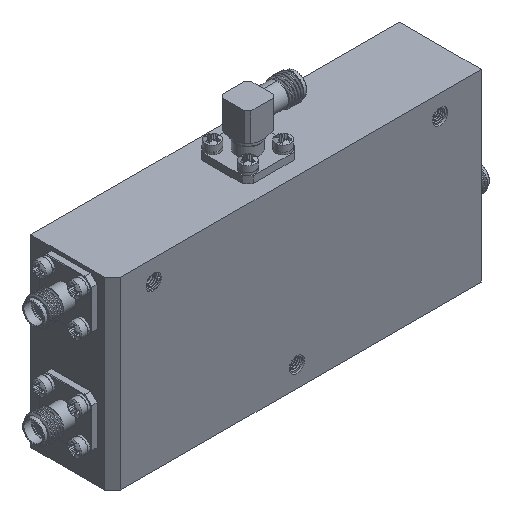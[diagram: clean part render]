
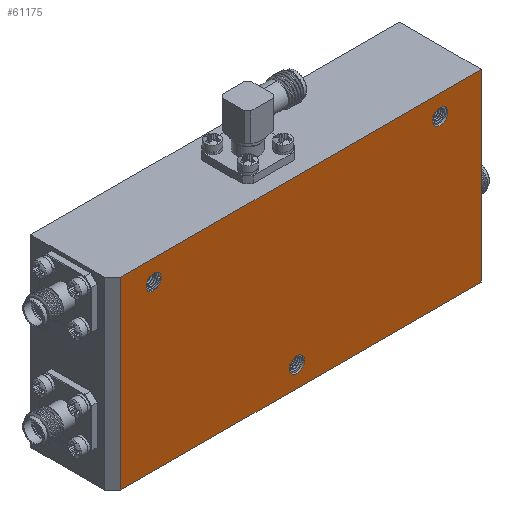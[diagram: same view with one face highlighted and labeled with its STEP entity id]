
A CAD part, isometric view. The second image highlights one B-rep face of the part: STEP entity #61175.
In plain terms, the highlighted planar face has unit normal (0, -1, 0).
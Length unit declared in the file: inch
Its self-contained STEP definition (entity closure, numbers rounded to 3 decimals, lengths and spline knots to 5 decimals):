
#1874 = CARTESIAN_POINT ( 'NONE',  ( -1.69291, 0., 0.88583 ) ) ;
#2501 = EDGE_LOOP ( 'NONE', ( #31167 ) ) ;
#3346 = CIRCLE ( 'NONE', #54579, 0.07315 ) ;
#6311 = CARTESIAN_POINT ( 'NONE',  ( -1.77165, 0., 0.88583 ) ) ;
#8080 = AXIS2_PLACEMENT_3D ( 'NONE', #14432, #56659, #42862 ) ;
#14432 = CARTESIAN_POINT ( 'NONE',  ( -1.37795, 0., 0.68898 ) ) ;
#14782 = CARTESIAN_POINT ( 'NONE',  ( -1.37795, 0., 0.61583 ) ) ;
#15746 = VERTEX_POINT ( 'NONE', #29984 ) ;
#16926 = AXIS2_PLACEMENT_3D ( 'NONE', #62092, #48336, #76369 ) ;
#16953 = DIRECTION ( 'NONE',  ( 0., -1., 0. ) ) ;
#17005 = ORIENTED_EDGE ( 'NONE', *, *, #44517, .F. ) ;
#18669 = AXIS2_PLACEMENT_3D ( 'NONE', #23438, #16953, #44490 ) ;
#20569 = ORIENTED_EDGE ( 'NONE', *, *, #46165, .F. ) ;
#21091 = EDGE_CURVE ( 'NONE', #57393, #74334, #75173, .T. ) ;
#21889 = DIRECTION ( 'NONE',  ( -1., 0., 0. ) ) ;
#23438 = CARTESIAN_POINT ( 'NONE',  ( 0., 0., 0. ) ) ;
#24763 = CARTESIAN_POINT ( 'NONE',  ( -1.69291, 0., -0.88583 ) ) ;
#27704 = DIRECTION ( 'NONE',  ( 0., 0., -1. ) ) ;
#29049 = DIRECTION ( 'NONE',  ( 0., -1., 0. ) ) ;
#29984 = CARTESIAN_POINT ( 'NONE',  ( -1.69291, 0., -0.88583 ) ) ;
#31167 = ORIENTED_EDGE ( 'NONE', *, *, #32186, .F. ) ;
#32186 = EDGE_CURVE ( 'NONE', #52947, #52947, #3346, .T. ) ;
#33437 = ORIENTED_EDGE ( 'NONE', *, *, #72706, .F. ) ;
#34080 = VERTEX_POINT ( 'NONE', #14782 ) ;
#34750 = CARTESIAN_POINT ( 'NONE',  ( 1.77165, 0., -0.88583 ) ) ;
#35996 = EDGE_CURVE ( 'NONE', #34080, #34080, #84389, .T. ) ;
#37407 = VERTEX_POINT ( 'NONE', #34750 ) ;
#40693 = DIRECTION ( 'NONE',  ( 1., 0., 0. ) ) ;
#41091 = EDGE_LOOP ( 'NONE', ( #83973, #89699, #17005, #20569 ) ) ;
#42478 = LINE ( 'NONE', #70549, #60402 ) ;
#42862 = DIRECTION ( 'NONE',  ( 0., 0., -1. ) ) ;
#43994 = LINE ( 'NONE', #24763, #54124 ) ;
#44490 = DIRECTION ( 'NONE',  ( 0., 0., -1. ) ) ;
#44517 = EDGE_CURVE ( 'NONE', #37407, #15746, #42478, .T. ) ;
#46165 = EDGE_CURVE ( 'NONE', #74334, #37407, #63485, .T. ) ;
#48336 = DIRECTION ( 'NONE',  ( 0., -1., 0. ) ) ;
#49269 = VERTEX_POINT ( 'NONE', #50636 ) ;
#50636 = CARTESIAN_POINT ( 'NONE',  ( 1.37795, 0., 0.61583 ) ) ;
#52947 = VERTEX_POINT ( 'NONE', #54282 ) ;
#54124 = VECTOR ( 'NONE', #86774, 39.37008 ) ;
#54282 = CARTESIAN_POINT ( 'NONE',  ( 0., 0., -0.76213 ) ) ;
#54579 = AXIS2_PLACEMENT_3D ( 'NONE', #76363, #29049, #76814 ) ;
#55077 = PLANE ( 'NONE',  #18669 ) ;
#56473 = CIRCLE ( 'NONE', #16926, 0.07315 ) ;
#56631 = EDGE_LOOP ( 'NONE', ( #33437 ) ) ;
#56659 = DIRECTION ( 'NONE',  ( 0., -1., 0. ) ) ;
#57393 = VERTEX_POINT ( 'NONE', #1874 ) ;
#59594 = ORIENTED_EDGE ( 'NONE', *, *, #35996, .F. ) ;
#60402 = VECTOR ( 'NONE', #21889, 39.37008 ) ;
#60598 = VECTOR ( 'NONE', #27704, 39.37008 ) ;
#61175 = ADVANCED_FACE ( 'NONE', ( #75783, #68937, #61931, #90053 ), #55077, .T. ) ;
#61931 = FACE_BOUND ( 'NONE', #2501, .T. ) ;
#62092 = CARTESIAN_POINT ( 'NONE',  ( 1.37795, 0., 0.68898 ) ) ;
#63031 = CARTESIAN_POINT ( 'NONE',  ( 1.77165, 0., 0.88583 ) ) ;
#63485 = LINE ( 'NONE', #63031, #60598 ) ;
#68937 = FACE_BOUND ( 'NONE', #56631, .T. ) ;
#70549 = CARTESIAN_POINT ( 'NONE',  ( -1.77165, 0., -0.88583 ) ) ;
#72706 = EDGE_CURVE ( 'NONE', #49269, #49269, #56473, .T. ) ;
#74334 = VERTEX_POINT ( 'NONE', #84219 ) ;
#75173 = LINE ( 'NONE', #6311, #78637 ) ;
#75783 = FACE_BOUND ( 'NONE', #81116, .T. ) ;
#76363 = CARTESIAN_POINT ( 'NONE',  ( 0., 0., -0.68898 ) ) ;
#76369 = DIRECTION ( 'NONE',  ( 0., 0., -1. ) ) ;
#76814 = DIRECTION ( 'NONE',  ( 0., 0., -1. ) ) ;
#78637 = VECTOR ( 'NONE', #40693, 39.37008 ) ;
#81116 = EDGE_LOOP ( 'NONE', ( #59594 ) ) ;
#83973 = ORIENTED_EDGE ( 'NONE', *, *, #21091, .F. ) ;
#84219 = CARTESIAN_POINT ( 'NONE',  ( 1.77165, 0., 0.88583 ) ) ;
#84389 = CIRCLE ( 'NONE', #8080, 0.07315 ) ;
#86774 = DIRECTION ( 'NONE',  ( 0., 0., -1. ) ) ;
#89657 = EDGE_CURVE ( 'NONE', #57393, #15746, #43994, .T. ) ;
#89699 = ORIENTED_EDGE ( 'NONE', *, *, #89657, .T. ) ;
#90053 = FACE_OUTER_BOUND ( 'NONE', #41091, .T. ) ;
